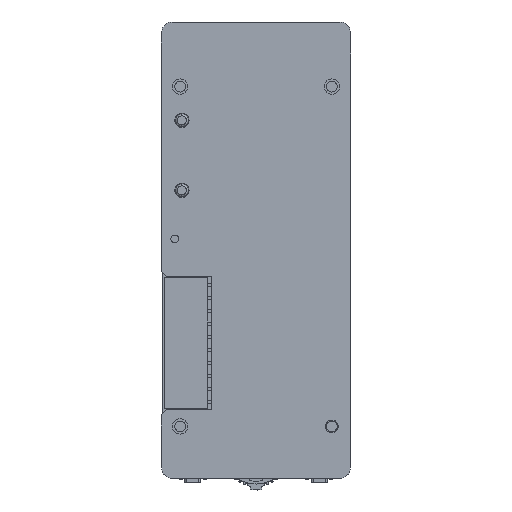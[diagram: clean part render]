
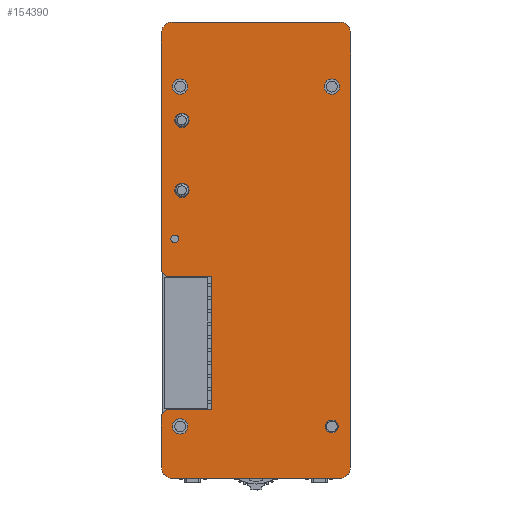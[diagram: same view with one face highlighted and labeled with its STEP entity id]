
A CAD part, front view. The second image highlights one B-rep face of the part: STEP entity #154390.
In plain terms, the highlighted planar face has unit normal (0, -1, 0).
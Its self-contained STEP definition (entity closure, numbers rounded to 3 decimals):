
#153863=CARTESIAN_POINT('',(-14.5,-8.1,25.4));
#153864=DIRECTION('',(0.,-1.,0.));
#153865=DIRECTION('',(1.,0.,0.));
#153866=AXIS2_PLACEMENT_3D('',#153863,#153864,#153865);
#153868=CARTESIAN_POINT('',(-14.5,-8.1,25.4));
#153869=DIRECTION('',(0.,-1.,0.));
#153870=DIRECTION('',(-1.,0.,0.));
#153871=AXIS2_PLACEMENT_3D('',#153868,#153869,#153870);
#153873=CARTESIAN_POINT('',(-14.5,-8.1,11.7));
#153874=DIRECTION('',(0.,-1.,0.));
#153875=DIRECTION('',(1.,0.,0.));
#153876=AXIS2_PLACEMENT_3D('',#153873,#153874,#153875);
#153878=CARTESIAN_POINT('',(-14.5,-8.1,11.7));
#153879=DIRECTION('',(0.,-1.,0.));
#153880=DIRECTION('',(-1.,0.,0.));
#153881=AXIS2_PLACEMENT_3D('',#153878,#153879,#153880);
#153883=CARTESIAN_POINT('',(-14.85,-8.1,-34.5));
#153884=DIRECTION('',(0.,-1.,0.));
#153885=DIRECTION('',(1.,0.,0.));
#153886=AXIS2_PLACEMENT_3D('',#153883,#153884,#153885);
#153888=CARTESIAN_POINT('',(-14.85,-8.1,-34.5));
#153889=DIRECTION('',(0.,-1.,0.));
#153890=DIRECTION('',(-1.,0.,0.));
#153891=AXIS2_PLACEMENT_3D('',#153888,#153889,#153890);
#153893=CARTESIAN_POINT('',(14.85,-8.1,-34.5));
#153894=DIRECTION('',(0.,-1.,0.));
#153895=DIRECTION('',(1.,0.,0.));
#153896=AXIS2_PLACEMENT_3D('',#153893,#153894,#153895);
#153898=CARTESIAN_POINT('',(14.85,-8.1,-34.5));
#153899=DIRECTION('',(0.,-1.,0.));
#153900=DIRECTION('',(-1.,0.,0.));
#153901=AXIS2_PLACEMENT_3D('',#153898,#153899,#153900);
#153903=CARTESIAN_POINT('',(-14.85,-8.1,32.));
#153904=DIRECTION('',(0.,-1.,0.));
#153905=DIRECTION('',(1.,0.,0.));
#153906=AXIS2_PLACEMENT_3D('',#153903,#153904,#153905);
#153908=CARTESIAN_POINT('',(-14.85,-8.1,32.));
#153909=DIRECTION('',(0.,-1.,0.));
#153910=DIRECTION('',(-1.,0.,0.));
#153911=AXIS2_PLACEMENT_3D('',#153908,#153909,#153910);
#153913=CARTESIAN_POINT('',(14.85,-8.1,32.));
#153914=DIRECTION('',(0.,-1.,0.));
#153915=DIRECTION('',(1.,0.,0.));
#153916=AXIS2_PLACEMENT_3D('',#153913,#153914,#153915);
#153918=CARTESIAN_POINT('',(14.85,-8.1,32.));
#153919=DIRECTION('',(0.,-1.,0.));
#153920=DIRECTION('',(-1.,0.,0.));
#153921=AXIS2_PLACEMENT_3D('',#153918,#153919,#153920);
#153923=CARTESIAN_POINT('',(-15.9,-8.1,2.2));
#153924=DIRECTION('',(0.,-1.,0.));
#153925=DIRECTION('',(1.,0.,0.));
#153926=AXIS2_PLACEMENT_3D('',#153923,#153924,#153925);
#153928=CARTESIAN_POINT('',(-15.9,-8.1,2.2));
#153929=DIRECTION('',(0.,-1.,0.));
#153930=DIRECTION('',(-1.,0.,0.));
#153931=AXIS2_PLACEMENT_3D('',#153928,#153929,#153930);
#153933=DIRECTION('',(-0.707,0.,-0.707));
#153934=VECTOR('',#153933,1.414);
#153935=CARTESIAN_POINT('',(-17.5,-8.1,-31.25));
#153936=LINE('',#153935,#153934);
#153937=DIRECTION('',(-1.,0.,0.));
#153938=VECTOR('',#153937,8.85);
#153939=CARTESIAN_POINT('',(-8.65,-8.1,-31.25));
#153940=LINE('',#153939,#153938);
#153941=DIRECTION('',(0.,0.,-1.));
#153942=VECTOR('',#153941,26.1);
#153943=CARTESIAN_POINT('',(-8.65,-8.1,-5.15));
#153944=LINE('',#153943,#153942);
#153945=DIRECTION('',(1.,0.,0.));
#153946=VECTOR('',#153945,8.85);
#153947=CARTESIAN_POINT('',(-17.5,-8.1,-5.15));
#153948=LINE('',#153947,#153946);
#153949=DIRECTION('',(0.707,0.,-0.707));
#153950=VECTOR('',#153949,1.414);
#153951=CARTESIAN_POINT('',(-18.5,-8.1,-4.15));
#153952=LINE('',#153951,#153950);
#153953=DIRECTION('',(0.,0.,-1.));
#153954=VECTOR('',#153953,46.65);
#153955=CARTESIAN_POINT('',(-18.5,-8.1,42.5));
#153956=LINE('',#153955,#153954);
#153957=CARTESIAN_POINT('',(-16.35,-8.1,42.5));
#153958=DIRECTION('',(0.,-1.,0.));
#153959=DIRECTION('',(0.,0.,1.));
#153960=AXIS2_PLACEMENT_3D('',#153957,#153958,#153959);
#153962=DIRECTION('',(-1.,0.,0.));
#153963=VECTOR('',#153962,32.7);
#153964=CARTESIAN_POINT('',(16.35,-8.1,44.65));
#153965=LINE('',#153964,#153963);
#153966=CARTESIAN_POINT('',(16.35,-8.1,42.5));
#153967=DIRECTION('',(0.,-1.,0.));
#153968=DIRECTION('',(1.,0.,0.));
#153969=AXIS2_PLACEMENT_3D('',#153966,#153967,#153968);
#153971=DIRECTION('',(0.,0.,1.));
#153972=VECTOR('',#153971,85.);
#153973=CARTESIAN_POINT('',(18.5,-8.1,-42.5));
#153974=LINE('',#153973,#153972);
#153975=CARTESIAN_POINT('',(16.35,-8.1,-42.5));
#153976=DIRECTION('',(0.,-1.,0.));
#153977=DIRECTION('',(0.,0.,-1.));
#153978=AXIS2_PLACEMENT_3D('',#153975,#153976,#153977);
#153980=DIRECTION('',(1.,0.,0.));
#153981=VECTOR('',#153980,32.7);
#153982=CARTESIAN_POINT('',(-16.35,-8.1,-44.65));
#153983=LINE('',#153982,#153981);
#153984=CARTESIAN_POINT('',(-16.35,-8.1,-42.5));
#153985=DIRECTION('',(0.,-1.,0.));
#153986=DIRECTION('',(-1.,0.,0.));
#153987=AXIS2_PLACEMENT_3D('',#153984,#153985,#153986);
#153989=DIRECTION('',(0.,0.,-1.));
#153990=VECTOR('',#153989,10.25);
#153991=CARTESIAN_POINT('',(-18.5,-8.1,-32.25));
#153992=LINE('',#153991,#153990);
#154101=CARTESIAN_POINT('',(-8.65,-8.1,-5.15));
#154102=CARTESIAN_POINT('',(-8.65,-8.1,-31.25));
#154103=VERTEX_POINT('',#154101);
#154104=VERTEX_POINT('',#154102);
#154109=CARTESIAN_POINT('',(16.35,-8.1,-44.65));
#154110=VERTEX_POINT('',#154109);
#154111=CARTESIAN_POINT('',(18.5,-8.1,-42.5));
#154112=VERTEX_POINT('',#154111);
#154117=CARTESIAN_POINT('',(-18.5,-8.1,-42.5));
#154118=VERTEX_POINT('',#154117);
#154119=CARTESIAN_POINT('',(-16.35,-8.1,-44.65));
#154120=VERTEX_POINT('',#154119);
#154125=CARTESIAN_POINT('',(-16.35,-8.1,44.65));
#154126=VERTEX_POINT('',#154125);
#154127=CARTESIAN_POINT('',(-18.5,-8.1,42.5));
#154128=VERTEX_POINT('',#154127);
#154133=CARTESIAN_POINT('',(18.5,-8.1,42.5));
#154134=VERTEX_POINT('',#154133);
#154135=CARTESIAN_POINT('',(16.35,-8.1,44.65));
#154136=VERTEX_POINT('',#154135);
#154145=CARTESIAN_POINT('',(-13.1,-8.1,25.4));
#154146=VERTEX_POINT('',#154145);
#154147=CARTESIAN_POINT('',(-15.9,-8.1,25.4));
#154148=VERTEX_POINT('',#154147);
#154149=CARTESIAN_POINT('',(-13.1,-8.1,11.7));
#154150=VERTEX_POINT('',#154149);
#154151=CARTESIAN_POINT('',(-15.9,-8.1,11.7));
#154152=VERTEX_POINT('',#154151);
#154169=CARTESIAN_POINT('',(-13.35,-8.1,-34.5));
#154170=CARTESIAN_POINT('',(-16.35,-8.1,-34.5));
#154171=VERTEX_POINT('',#154169);
#154172=VERTEX_POINT('',#154170);
#154173=CARTESIAN_POINT('',(16.1,-8.1,-34.5));
#154174=CARTESIAN_POINT('',(13.6,-8.1,-34.5));
#154175=VERTEX_POINT('',#154173);
#154176=VERTEX_POINT('',#154174);
#154177=CARTESIAN_POINT('',(-13.35,-8.1,32.));
#154178=CARTESIAN_POINT('',(-16.35,-8.1,32.));
#154179=VERTEX_POINT('',#154177);
#154180=VERTEX_POINT('',#154178);
#154181=CARTESIAN_POINT('',(16.35,-8.1,32.));
#154182=CARTESIAN_POINT('',(13.35,-8.1,32.));
#154183=VERTEX_POINT('',#154181);
#154184=VERTEX_POINT('',#154182);
#154189=CARTESIAN_POINT('',(-15.15,-8.1,2.2));
#154190=CARTESIAN_POINT('',(-16.65,-8.1,2.2));
#154191=VERTEX_POINT('',#154189);
#154192=VERTEX_POINT('',#154190);
#154197=CARTESIAN_POINT('',(-17.5,-8.1,-31.25));
#154198=VERTEX_POINT('',#154197);
#154199=CARTESIAN_POINT('',(-18.5,-8.1,-32.25));
#154200=VERTEX_POINT('',#154199);
#154205=CARTESIAN_POINT('',(-18.5,-8.1,-4.15));
#154206=VERTEX_POINT('',#154205);
#154207=CARTESIAN_POINT('',(-17.5,-8.1,-5.15));
#154208=VERTEX_POINT('',#154207);
#154315=CARTESIAN_POINT('',(0.,-8.1,0.));
#154316=DIRECTION('',(0.,-1.,0.));
#154317=DIRECTION('',(0.,0.,1.));
#154318=AXIS2_PLACEMENT_3D('',#154315,#154316,#154317);
#154319=PLANE('',#154318);
#154321=ORIENTED_EDGE('',*,*,#154320,.F.);
#154323=ORIENTED_EDGE('',*,*,#154322,.F.);
#154325=ORIENTED_EDGE('',*,*,#154324,.F.);
#154327=ORIENTED_EDGE('',*,*,#154326,.F.);
#154329=ORIENTED_EDGE('',*,*,#154328,.F.);
#154331=ORIENTED_EDGE('',*,*,#154330,.F.);
#154333=ORIENTED_EDGE('',*,*,#154332,.F.);
#154335=ORIENTED_EDGE('',*,*,#154334,.F.);
#154337=ORIENTED_EDGE('',*,*,#154336,.F.);
#154339=ORIENTED_EDGE('',*,*,#154338,.F.);
#154341=ORIENTED_EDGE('',*,*,#154340,.F.);
#154343=ORIENTED_EDGE('',*,*,#154342,.F.);
#154345=ORIENTED_EDGE('',*,*,#154344,.F.);
#154347=ORIENTED_EDGE('',*,*,#154346,.F.);
#154348=EDGE_LOOP('',(#154321,#154323,#154325,#154327,#154329,#154331,#154333,
#154335,#154337,#154339,#154341,#154343,#154345,#154347));
#154349=FACE_OUTER_BOUND('',#154348,.F.);
#154351=ORIENTED_EDGE('',*,*,#154350,.T.);
#154353=ORIENTED_EDGE('',*,*,#154352,.T.);
#154354=EDGE_LOOP('',(#154351,#154353));
#154355=FACE_BOUND('',#154354,.F.);
#154357=ORIENTED_EDGE('',*,*,#154356,.T.);
#154359=ORIENTED_EDGE('',*,*,#154358,.T.);
#154360=EDGE_LOOP('',(#154357,#154359));
#154361=FACE_BOUND('',#154360,.F.);
#154363=ORIENTED_EDGE('',*,*,#154362,.T.);
#154365=ORIENTED_EDGE('',*,*,#154364,.T.);
#154366=EDGE_LOOP('',(#154363,#154365));
#154367=FACE_BOUND('',#154366,.F.);
#154369=ORIENTED_EDGE('',*,*,#154368,.T.);
#154371=ORIENTED_EDGE('',*,*,#154370,.T.);
#154372=EDGE_LOOP('',(#154369,#154371));
#154373=FACE_BOUND('',#154372,.F.);
#154375=ORIENTED_EDGE('',*,*,#154374,.T.);
#154377=ORIENTED_EDGE('',*,*,#154376,.T.);
#154378=EDGE_LOOP('',(#154375,#154377));
#154379=FACE_BOUND('',#154378,.F.);
#154381=ORIENTED_EDGE('',*,*,#154380,.T.);
#154383=ORIENTED_EDGE('',*,*,#154382,.T.);
#154384=EDGE_LOOP('',(#154381,#154383));
#154385=FACE_BOUND('',#154384,.F.);
#154386=ORIENTED_EDGE('',*,*,#154295,.T.);
#154387=ORIENTED_EDGE('',*,*,#154309,.T.);
#154388=EDGE_LOOP('',(#154386,#154387));
#154389=FACE_BOUND('',#154388,.F.);
#154390=ADVANCED_FACE('',(#154349,#154355,#154361,#154367,#154373,#154379,
#154385,#154389),#154319,.T.);
#153867=CIRCLE('',#153866,1.4);
#153872=CIRCLE('',#153871,1.4);
#153877=CIRCLE('',#153876,1.4);
#153882=CIRCLE('',#153881,1.4);
#153887=CIRCLE('',#153886,1.5);
#153892=CIRCLE('',#153891,1.5);
#153897=CIRCLE('',#153896,1.25);
#153902=CIRCLE('',#153901,1.25);
#153907=CIRCLE('',#153906,1.5);
#153912=CIRCLE('',#153911,1.5);
#153917=CIRCLE('',#153916,1.5);
#153922=CIRCLE('',#153921,1.5);
#153927=CIRCLE('',#153926,0.75);
#153932=CIRCLE('',#153931,0.75);
#153961=CIRCLE('',#153960,2.15);
#153970=CIRCLE('',#153969,2.15);
#153979=CIRCLE('',#153978,2.15);
#153988=CIRCLE('',#153987,2.15);
#154295=EDGE_CURVE('',#154146,#154148,#153867,.T.);
#154309=EDGE_CURVE('',#154148,#154146,#153872,.T.);
#154320=EDGE_CURVE('',#154198,#154200,#153936,.T.);
#154322=EDGE_CURVE('',#154104,#154198,#153940,.T.);
#154324=EDGE_CURVE('',#154103,#154104,#153944,.T.);
#154326=EDGE_CURVE('',#154208,#154103,#153948,.T.);
#154328=EDGE_CURVE('',#154206,#154208,#153952,.T.);
#154330=EDGE_CURVE('',#154128,#154206,#153956,.T.);
#154332=EDGE_CURVE('',#154126,#154128,#153961,.T.);
#154334=EDGE_CURVE('',#154136,#154126,#153965,.T.);
#154336=EDGE_CURVE('',#154134,#154136,#153970,.T.);
#154338=EDGE_CURVE('',#154112,#154134,#153974,.T.);
#154340=EDGE_CURVE('',#154110,#154112,#153979,.T.);
#154342=EDGE_CURVE('',#154120,#154110,#153983,.T.);
#154344=EDGE_CURVE('',#154118,#154120,#153988,.T.);
#154346=EDGE_CURVE('',#154200,#154118,#153992,.T.);
#154350=EDGE_CURVE('',#154150,#154152,#153877,.T.);
#154352=EDGE_CURVE('',#154152,#154150,#153882,.T.);
#154356=EDGE_CURVE('',#154171,#154172,#153887,.T.);
#154358=EDGE_CURVE('',#154172,#154171,#153892,.T.);
#154362=EDGE_CURVE('',#154175,#154176,#153897,.T.);
#154364=EDGE_CURVE('',#154176,#154175,#153902,.T.);
#154368=EDGE_CURVE('',#154179,#154180,#153907,.T.);
#154370=EDGE_CURVE('',#154180,#154179,#153912,.T.);
#154374=EDGE_CURVE('',#154183,#154184,#153917,.T.);
#154376=EDGE_CURVE('',#154184,#154183,#153922,.T.);
#154380=EDGE_CURVE('',#154191,#154192,#153927,.T.);
#154382=EDGE_CURVE('',#154192,#154191,#153932,.T.);
